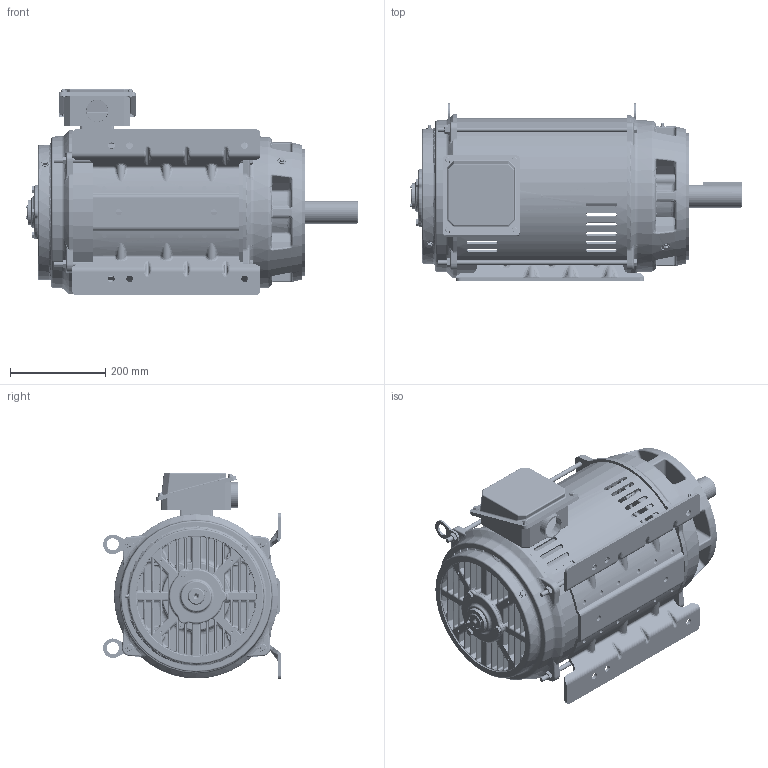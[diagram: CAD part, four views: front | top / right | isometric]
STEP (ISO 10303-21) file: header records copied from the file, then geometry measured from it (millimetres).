
FILE_DESCRIPTION (( 'STEP AP203' ), '1' );
FILE_NAME ('SS621177-200_RevB.STEP', '2022-07-14T15:32:58', ( '' ), ( '' ), 'SwSTEP 2.0', 'SolidWorks 2021', '' );
FILE_SCHEMA (( 'CONFIG_CONTROL_DESIGN' ));
Products named in the file (1): SS621177-200_RevB
Bounding box: 696.59 x 373.28 x 434.15 mm (x, y, z)
Volume: 10955882.3 mm3; surface area: 2447899.5 mm2
Topology: 52 solids, 52 shells, 4502 faces, 11483 edges, 6804 vertices
Faces by surface type: cylinder 1444, bspline 1007, plane 933, torus 524, cone 486, sphere 108
Entity records: 198733 total; most frequent: CARTESIAN_POINT 99774, ORIENTED_EDGE 22468, DIRECTION 18848, EDGE_CURVE 11234, AXIS2_PLACEMENT_3D 7683, VERTEX_POINT 6800, EDGE_LOOP 4864, FACE_OUTER_BOUND 4502
